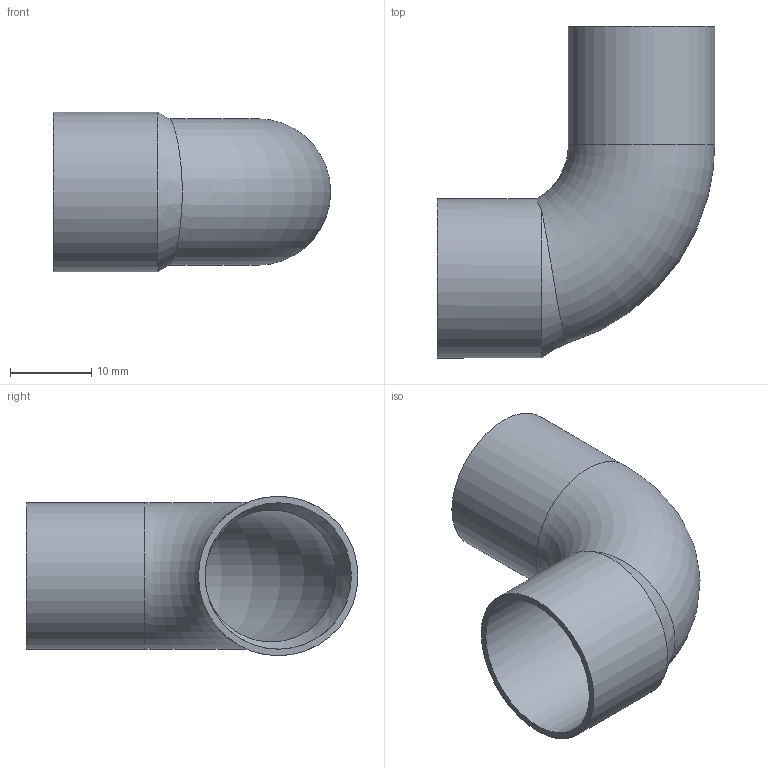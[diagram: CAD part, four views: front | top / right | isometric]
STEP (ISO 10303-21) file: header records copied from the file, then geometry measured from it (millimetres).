
FILE_DESCRIPTION((''),'2;1');
FILE_NAME('G:\SANHA-Ternat\Technik\Management\Bouwmaten + markeringen\z-maattekeningen 3D\5000\5092\1509218(0).stp','2018-02-20T09:44:38',('vdvijverd'),(''),'Autodesk Inventor 2009','Autodesk Inventor 2009','');
FILE_SCHEMA(('AUTOMOTIVE_DESIGN { 1 0 10303 214 1 1 1 1 }'));
Length unit declared in the file: millimetre
Products named in the file (1): 1509218(0)
Bounding box: 34.1 x 40.8 x 19.6 mm (x, y, z)
Volume: 2362.5 mm3; surface area: 5533.7 mm2
Topology: 1 solids, 1 shells, 10 faces, 22 edges, 14 vertices
Faces by surface type: cylinder 4, plane 2, cone 2, torus 2
Full cylindrical faces by diameter (mm): 16.2 x1, 18 x2, 19.6 x1
Entity records: 310 total; most frequent: CARTESIAN_POINT 109, DIRECTION 38, ORIENTED_EDGE 24, AXIS2_PLACEMENT_3D 19, EDGE_LOOP 18, EDGE_CURVE 12, VERTEX_POINT 10, FACE_OUTER_BOUND 10
